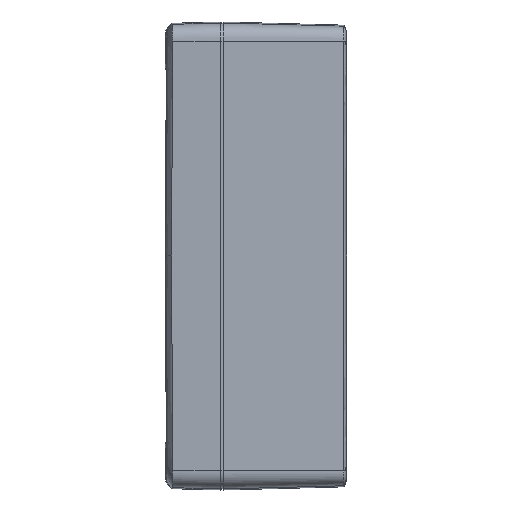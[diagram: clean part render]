
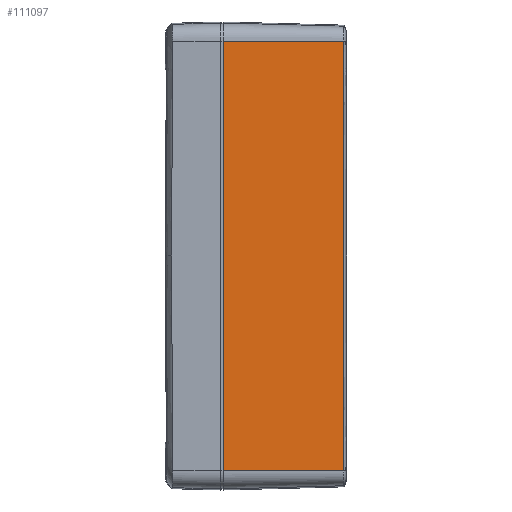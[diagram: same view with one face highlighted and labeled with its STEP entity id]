
A CAD part, left-side view. The second image highlights one B-rep face of the part: STEP entity #111097.
In plain terms, the highlighted planar face has unit normal (-1, -0.026, 0).
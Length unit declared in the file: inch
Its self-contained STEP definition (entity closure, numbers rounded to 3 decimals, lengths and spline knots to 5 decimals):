
#4562 = ORIENTED_EDGE ( 'NONE', *, *, #25319, .F. ) ;
#7251 = VERTEX_POINT ( 'NONE', #10972 ) ;
#8849 = EDGE_CURVE ( 'NONE', #63333, #21519, #71696, .T. ) ;
#10972 = CARTESIAN_POINT ( 'NONE',  ( -4.5625, 1.715, -2.98495 ) ) ;
#13965 = CARTESIAN_POINT ( 'NONE',  ( -4.51882, 0.04698, -2.98495 ) ) ;
#18640 = FACE_OUTER_BOUND ( 'NONE', #85303, .T. ) ;
#21519 = VERTEX_POINT ( 'NONE', #102158 ) ;
#21894 = PLANE ( 'NONE',  #45108 ) ;
#24550 = CARTESIAN_POINT ( 'NONE',  ( -4.51882, 0.04699, 0.99498 ) ) ;
#25319 = EDGE_CURVE ( 'NONE', #7251, #122670, #107032, .T. ) ;
#30218 = CARTESIAN_POINT ( 'NONE',  ( -4.5625, 1.715, 2.98495 ) ) ;
#33717 = VECTOR ( 'NONE', #40498, 39.37008 ) ;
#37361 = VECTOR ( 'NONE', #70240, 39.37008 ) ;
#40498 = DIRECTION ( 'NONE',  ( 0.026, -1., 0. ) ) ;
#42486 = LINE ( 'NONE', #30218, #37361 ) ;
#45108 = AXIS2_PLACEMENT_3D ( 'NONE', #70972, #138465, #51046 ) ;
#47909 = ORIENTED_EDGE ( 'NONE', *, *, #91549, .F. ) ;
#51046 = DIRECTION ( 'NONE',  ( 0.026, -1., 0. ) ) ;
#61429 = ORIENTED_EDGE ( 'NONE', *, *, #120838, .T. ) ;
#63333 = VERTEX_POINT ( 'NONE', #13965 ) ;
#65013 = CARTESIAN_POINT ( 'NONE',  ( -4.5625, 1.715, -2.98495 ) ) ;
#70240 = DIRECTION ( 'NONE',  ( 0.026, -1., 0. ) ) ;
#70972 = CARTESIAN_POINT ( 'NONE',  ( -4.5625, 1.715, -2.98495 ) ) ;
#71696 = B_SPLINE_CURVE_WITH_KNOTS ( 'NONE', 3,
 ( #148720, #146321, #24550, #72008 ),
 .UNSPECIFIED., .F., .F.,
 ( 4, 4 ),
 ( 0., 1. ),
 .UNSPECIFIED. ) ;
#72008 = CARTESIAN_POINT ( 'NONE',  ( -4.51882, 0.04699, 2.98495 ) ) ;
#85303 = EDGE_LOOP ( 'NONE', ( #61429, #89475, #47909, #4562 ) ) ;
#89475 = ORIENTED_EDGE ( 'NONE', *, *, #8849, .T. ) ;
#91549 = EDGE_CURVE ( 'NONE', #122670, #21519, #42486, .T. ) ;
#102158 = CARTESIAN_POINT ( 'NONE',  ( -4.51882, 0.04699, 2.98495 ) ) ;
#103348 = LINE ( 'NONE', #65013, #33717 ) ;
#107032 = LINE ( 'NONE', #156895, #161274 ) ;
#111097 = ADVANCED_FACE ( 'Face2', ( #18640 ), #21894, .T. ) ;
#119359 = CARTESIAN_POINT ( 'NONE',  ( -4.5625, 1.715, 2.98495 ) ) ;
#120838 = EDGE_CURVE ( 'NONE', #7251, #63333, #103348, .T. ) ;
#122670 = VERTEX_POINT ( 'NONE', #119359 ) ;
#138465 = DIRECTION ( 'NONE',  ( -1., -0.026, 0. ) ) ;
#144662 = DIRECTION ( 'NONE',  ( 0., 0., 1. ) ) ;
#146321 = CARTESIAN_POINT ( 'NONE',  ( -4.51882, 0.04699, -0.99498 ) ) ;
#148720 = CARTESIAN_POINT ( 'NONE',  ( -4.51882, 0.04698, -2.98495 ) ) ;
#156895 = CARTESIAN_POINT ( 'NONE',  ( -4.5625, 1.715, -2.98495 ) ) ;
#161274 = VECTOR ( 'NONE', #144662, 39.37008 ) ;
